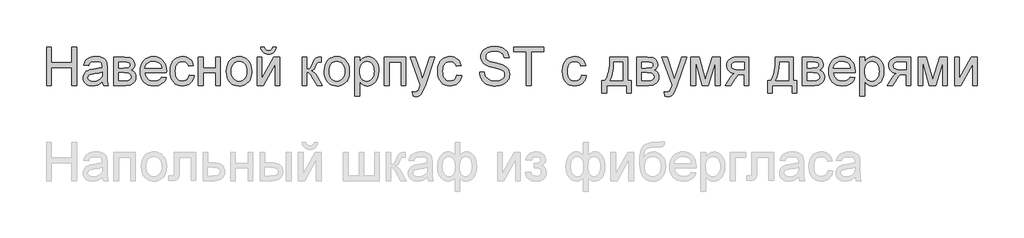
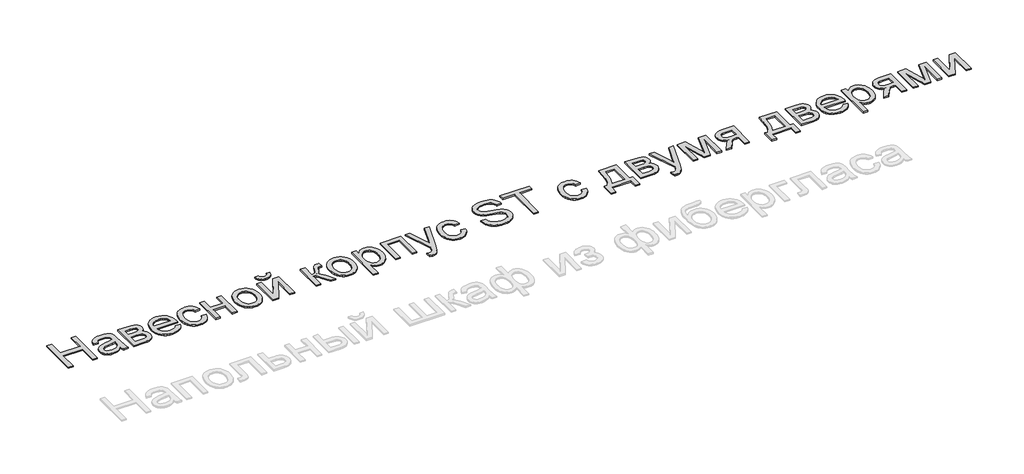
# One storey, part 4 of 6: 1 proxy.
"""IFC4 building model written with IfcOpenShell, lengths in millimetres."""

from ifc_helpers import new_model, si_unit, origin, origin_with_axes, place, context, project, spatial, polyline, outline, extrude, element, save

model = new_model("IFC4")

# Units and contexts
model_context = context("Model", 3, world=origin())
ifc_project = project(units=[si_unit("LENGTHUNIT", "METRE", prefix="MILLI")], contexts=[model_context])

# Site, building, storey
site = spatial("IfcSite", under=ifc_project)
building = spatial("IfcBuilding", under=site)
storey = spatial("IfcBuildingStorey", under=building, Name="Этаж 01", Elevation=0.0)

# Proxy
placement = place(None, origin())
element("IfcBuildingElementProxy", 1, Name="600 мм Arial", ObjectType="600 мм Arial", at=placement, inside=storey, context=model_context, shape_type="SweptSolid", body=[
    extrude(outline(polyline([(180.1086, -11579.3444823), (180.1086, -10976.6066215), (255.4508326, -10976.6066215), (255.4508326, -11221.4688774), (575.6553212, -11221.4688774), (575.6553212, -10976.6066215), (650.9975538, -10976.6066215), (650.9975538, -11579.3444823), (575.6553212, -11579.3444823), (575.6553212, -11296.8111101), (255.4508326, -11296.8111101), (255.4508326, -11579.3444823), (180.1086, -11579.3444823)])), origin_with_axes(), (0.0, 0.0, 1.0), 20.0),
    extrude(outline(polyline([(1055.9620541, -11522.8378079), (1019.9648008, -11553.7031073), (982.9006898, -11573.8998288), (943.9235924, -11585.0466533), (902.1873801, -11588.7622614), (868.6411407, -11586.5273783), (839.2243766, -11579.8227289), (813.937088, -11568.6483133), (792.7792747, -11553.0041315), (776.0728336, -11533.8834648), (764.1396614, -11512.2795946), (756.9797581, -11488.192521), (754.5931236, -11461.6222439), (758.1983672, -11430.3890625), (769.0140978, -11402.0253607), (785.6975463, -11377.745149), (806.9059433, -11358.762438), (831.8299485, -11344.4150402), (859.6602214, -11334.040768), (924.848911, -11322.7100025), (1001.8834008, -11310.7906259), (1055.5205957, -11296.8111101), (1055.9620541, -11280.0356911), (1050.7749179, -11246.4112767), (1044.2909978, -11233.9584712), (1035.2135095, -11224.4119334), (1019.5233425, -11214.8837897), (1000.4118728, -11208.0779728), (951.9250258, -11202.6333193), (907.0434224, -11206.2569569), (875.6998764, -11217.1278699), (854.3259325, -11237.2326209), (839.3531353, -11268.5577728), (764.0109027, -11259.1399937), (777.0891076, -11217.9372103), (796.6052475, -11185.5635947), (824.3803381, -11160.8051364), (862.2353954, -11142.4478249), (908.5333445, -11131.0802712), (961.6371105, -11127.2910867), (1012.5703727, -11130.6388128), (1052.9454217, -11140.6819913), (1083.3876568, -11155.7835472), (1104.5224774, -11174.3064057), (1118.5387815, -11197.2070599), (1127.6254667, -11225.442003), (1131.3042867, -11291.3664565), (1131.3042867, -11385.1027889), (1135.1302594, -11515.9952028), (1140.7956422, -11548.3504243), (1150.1398448, -11579.3444823), (1074.7976122, -11579.3444823), (1062.7310828, -11553.1512843), (1055.9620541, -11522.8378079)]), holes=[polyline([(1055.9620541, -11372.1533427), (1005.3414915, -11384.6981187), (934.4138429, -11395.256332), (869.5930353, -11407.4700142), (852.7256458, -11415.8209355), (840.2360521, -11427.3356419), (832.5105302, -11441.1312168), (829.9353562, -11456.3247432), (835.5455567, -11478.7287567), (852.3761579, -11497.0860682), (880.0592781, -11509.3365387), (918.2270351, -11513.4200288), (958.6940545, -11508.9134744), (994.4521845, -11495.393811), (1023.4412857, -11475.473001), (1043.601219, -11451.7630064), (1052.5407515, -11427.3356419), (1055.5205957, -11393.4904984), (1055.9620541, -11372.1533427)])]), origin_with_axes(), (0.0, 0.0, 1.0), 20.0),
    extrude(outline(polyline([(1234.8998565, -11136.7088658), (1400.8882128, -11136.7088658), (1454.2494962, -11139.2288574), (1491.9022184, -11146.7888324), (1519.6037326, -11161.0626538), (1543.1113921, -11183.7241847), (1559.1694412, -11213.2467148), (1564.5221242, -11248.1035339), (1561.2847626, -11276.1913242), (1551.572678, -11300.4163536), (1535.349082, -11320.8889866), (1512.5771865, -11337.7195879), (1540.4626417, -11353.3729668), (1563.197749, -11378.5544894), (1578.317699, -11411.2775929), (1583.3576824, -11449.5557145), (1579.1730247, -11480.3934227), (1570.5921771, -11506.9820939), (1557.6151397, -11529.3217281), (1540.2419125, -11547.4123252), (1518.4449043, -11561.3826439), (1492.196524, -11571.3614431), (1461.4967715, -11577.3487225), (1426.3456468, -11579.3444823), (1234.8998565, -11579.3444823), (1234.8998565, -11136.7088658)]), holes=[polyline([(1310.2420891, -11306.2288891), (1384.701405, -11306.2288891), (1446.1376982, -11302.4029164), (1461.9566239, -11296.6639573), (1476.0097162, -11287.0990254), (1485.8873477, -11274.4438847), (1489.1798916, -11259.4342993), (1487.7359548, -11247.193026), (1483.4041443, -11236.9567094), (1476.1844601, -11228.7253498), (1466.0769023, -11222.498947), (1434.7701445, -11214.6630605), (1387.0558497, -11212.0510984), (1310.2420891, -11212.0510984), (1310.2420891, -11306.2288891)]), polyline([(1310.2420891, -11504.0022497), (1402.6540463, -11504.0022497), (1453.0170915, -11500.5993413), (1484.6181549, -11490.3906159), (1494.413013, -11482.3477958), (1501.5775148, -11471.8309693), (1508.0154497, -11443.3752969), (1504.7964823, -11424.5213447), (1495.1395799, -11407.1021322), (1480.3139355, -11393.4721043), (1461.588742, -11385.9857057), (1395.2964064, -11381.5711217), (1310.2420891, -11381.5711217), (1310.2420891, -11504.0022497)])]), origin_with_axes(), (0.0, 0.0, 1.0), 20.0),
    extrude(outline(polyline([(1987.4392659, -11447.4955753), (2061.3099705, -11456.9133544), (2049.9838036, -11486.5002638), (2034.6937081, -11512.5739002), (2015.4396842, -11535.1342636), (1992.2217318, -11554.1813539), (1965.2789742, -11569.3105009), (1934.8505346, -11580.1170345), (1900.9364132, -11586.6009547), (1863.5366099, -11588.7622614), (1816.7880053, -11585.0328577), (1775.1345664, -11573.8446465), (1738.5762932, -11555.1976279), (1707.1131855, -11529.0918018), (1681.8121013, -11496.2537352), (1663.7398983, -11457.409995), (1652.8965765, -11412.5605813), (1649.2821359, -11361.705494), (1652.9333647, -11309.1259598), (1663.8870511, -11262.7820255), (1682.1431951, -11222.673691), (1707.7017967, -11188.8009563), (1739.0821309, -11161.8903883), (1774.8034726, -11142.6685541), (1814.8658219, -11131.1354535), (1859.2691787, -11127.2910867), (1902.2423943, -11131.1262565), (1941.1045286, -11142.6317659), (1975.8555815, -11161.8076149), (2006.4955532, -11188.6538035), (2031.5069304, -11222.4529618), (2049.3721997, -11262.4877199), (2060.0913614, -11308.7580778), (2063.6644153, -11361.2640356), (2063.2229569, -11381.5711217), (1724.6243685, -11381.5711217), (1728.9883687, -11411.6362778), (1737.6657852, -11437.9674316), (1750.6566182, -11460.5645832), (1767.9608675, -11479.4277325), (1788.6220401, -11494.2993621), (1811.6836427, -11504.9219547), (1837.1456753, -11511.2955103), (1865.0081379, -11513.4200288), (1905.1072753, -11509.4836915), (1938.8788425, -11497.6746794), (1966.3228393, -11477.2572287), (1987.4392659, -11447.4955753)]), holes=[polyline([(1724.6243685, -11306.2288891), (1988.3221826, -11306.2288891), (1978.1318514, -11266.4240573), (1969.3670628, -11250.7706784), (1958.155859, -11237.9499908), (1937.6096496, -11222.498947), (1914.2307488, -11211.4624872), (1888.0191567, -11204.8406113), (1858.9748731, -11202.6333193), (1832.482771, -11204.3945543), (1808.1887637, -11209.6782595), (1786.0928514, -11218.4844348), (1766.195034, -11230.8130801), (1749.4977899, -11246.0939785), (1737.0035976, -11263.7569128), (1728.7124572, -11283.801883), (1724.6243685, -11306.2288891)])]), origin_with_axes(), (0.0, 0.0, 1.0), 20.0),
    extrude(outline(polyline([(2421.5400202, -11419.242238), (2496.8822528, -11428.6600171), (2488.6876813, -11464.2112134), (2475.8761909, -11495.6697225), (2458.4477813, -11523.0355445), (2436.4024528, -11546.3086792), (2410.6691072, -11564.8821214), (2382.1766467, -11578.1488659), (2350.9250712, -11586.1089125), (2316.9143807, -11588.7622614), (2274.6585351, -11585.0604488), (2236.7712881, -11573.9550111), (2203.2526398, -11555.4459482), (2174.1025902, -11529.5332602), (2150.5075587, -11496.7043907), (2133.6539648, -11457.4467832), (2123.5418085, -11411.760438), (2120.1710897, -11359.6453548), (2125.9284429, -11292.5988612), (2133.1251345, -11262.4279391), (2143.2005026, -11234.4919001), (2156.2235252, -11209.3517642), (2172.2631802, -11187.5685516), (2191.3194676, -11169.1422622), (2213.3923873, -11154.0728959), (2237.4840595, -11142.3558544), (2262.5966042, -11133.986539), (2288.7300214, -11128.9649498), (2315.8843112, -11127.2910867), (2349.3109889, -11129.5903491), (2379.5462904, -11136.4881366), (2406.5902156, -11147.9844489), (2430.4427645, -11164.0792862), (2450.6992668, -11184.4047664), (2466.9550525, -11208.5930076), (2479.2101214, -11236.6440097), (2487.4644737, -11268.5577728), (2412.1222411, -11277.9755519), (2398.455425, -11245.1052956), (2377.1734516, -11221.5424538), (2349.4535432, -11207.3606029), (2316.4729223, -11202.6333193), (2290.872934, -11204.9601729), (2267.7837403, -11211.9407338), (2247.2053412, -11223.5750019), (2229.1377367, -11239.8629772), (2214.4270554, -11261.1817388), (2203.9194259, -11287.9083658), (2197.6148482, -11320.042858), (2195.5133223, -11357.5852157), (2197.568863, -11395.6931918), (2203.7354849, -11428.2001646), (2214.0131882, -11455.1061341), (2228.4019727, -11476.4111001), (2246.1108922, -11492.6025064), (2266.3490005, -11504.1677966), (2289.1162975, -11511.1069708), (2314.4127832, -11513.4200288), (2353.4266688, -11507.6442815), (2370.2986568, -11500.4245973), (2385.4140082, -11490.3170395), (2398.3496589, -11477.2112434), (2408.6825444, -11460.9968445), (2416.4126649, -11441.6738427), (2421.5400202, -11419.242238)])), origin_with_axes(), (0.0, 0.0, 1.0), 20.0),
    extrude(outline(polyline([(2562.8067063, -11136.7088658), (2638.1489389, -11136.7088658), (2638.1489389, -11306.2288891), (2835.9222995, -11306.2288891), (2835.9222995, -11136.7088658), (2911.2645321, -11136.7088658), (2911.2645321, -11579.3444823), (2835.9222995, -11579.3444823), (2835.9222995, -11381.5711217), (2638.1489389, -11381.5711217), (2638.1489389, -11579.3444823), (2562.8067063, -11579.3444823), (2562.8067063, -11136.7088658)])), origin_with_axes(), (0.0, 0.0, 1.0), 20.0),
    extrude(outline(polyline([(3005.4423229, -11358.0266741), (3009.516616, -11300.7014622), (3021.7394953, -11251.3041073), (3042.1109608, -11209.8346093), (3070.6310125, -11176.2929684), (3099.3442022, -11154.8546452), (3131.0372361, -11139.5415571), (3165.7101141, -11130.3537043), (3203.3628363, -11127.2910867), (3244.9289032, -11131.0204904), (3282.5126476, -11142.2087016), (3316.1140693, -11160.8557202), (3345.7331685, -11186.9615463), (3369.9076141, -11219.643263), (3387.1750752, -11258.0179537), (3397.5355519, -11302.0856182), (3400.9890441, -11351.8462565), (3399.4623338, -11392.1753203), (3394.882203, -11427.9610413), (3387.2486516, -11459.2034198), (3376.5616796, -11485.9024556), (3362.9546444, -11508.9640581), (3346.5609029, -11529.2941369), (3327.3804554, -11546.8926918), (3305.4133018, -11561.759723), (3281.5147677, -11573.5733335), (3256.5401787, -11582.0116268), (3230.4895349, -11587.0746028), (3203.3628363, -11588.7622614), (3161.1897641, -11585.0466533), (3123.2565319, -11573.8998288), (3089.5631396, -11555.3217881), (3060.1095874, -11529.312531), (3036.1926592, -11496.313516), (3019.109139, -11456.7662016), (3008.8590269, -11410.6705876), (3005.4423229, -11358.0266741)]), holes=[polyline([(3080.7845555, -11357.8795213), (3082.9642563, -11394.4239989), (3089.5033588, -11426.0664491), (3100.4018629, -11452.8068716), (3115.6597687, -11474.6452665), (3134.2194153, -11491.609225), (3155.0231422, -11503.7263382), (3178.0709491, -11510.9966062), (3203.3628363, -11513.4200288), (3228.5259648, -11510.9828106), (3251.4818013, -11503.6711559), (3272.2303458, -11491.4850649), (3290.7715984, -11474.4245373), (3306.0295041, -11452.3700117), (3316.9280082, -11425.2019264), (3323.4671107, -11392.9202813), (3325.6468115, -11355.5250765), (3323.4533151, -11320.1394271), (3316.8728259, -11289.3247115), (3305.9053439, -11263.0809296), (3290.5508692, -11241.4080816), (3271.9406387, -11224.4441231), (3251.2058898, -11212.3270099), (3228.3466223, -11205.0567419), (3203.3628363, -11202.6333193), (3178.0709491, -11205.0475449), (3155.0231422, -11212.2902217), (3134.2194153, -11224.3613496), (3115.6597687, -11241.2609288), (3100.4018629, -11263.0349444), (3089.5033588, -11289.7293816), (3082.9642563, -11321.3442406), (3080.7845555, -11357.8795213)])]), origin_with_axes(), (0.0, 0.0, 1.0), 20.0),
    extrude(outline(polyline([(3730.6113118, -10976.6066215), (3787.1179863, -10976.6066215), (3782.5700451, -11002.3169744), (3774.9594863, -11024.8543451), (3764.2863099, -11044.2187336), (3750.5505159, -11060.41014), (3734.0280158, -11073.1894408), (3714.9947211, -11082.3175128), (3693.4506318, -11087.794356), (3669.3957478, -11089.6199704), (3643.2669291, -11087.8081515), (3619.9156195, -11082.3726951), (3599.3418189, -11073.3136009), (3581.5455274, -11060.6308691), (3566.7842623, -11044.5084407), (3555.3155411, -11025.1302566), (3547.1393638, -11002.4963169), (3542.2557303, -10976.6066215), (3598.7624047, -10976.6066215), (3606.7086558, -11001.420262), (3619.9524077, -11019.0602037), (3638.5672366, -11029.6000229), (3662.6267191, -11033.1132959), (3689.7764103, -11029.7103875), (3709.4213089, -11019.5016621), (3722.6650607, -11001.972085), (3730.6113118, -10976.6066215)])), origin_with_axes(), (0.0, 0.0, 1.0), 20.0),
    extrude(outline(polyline([(3485.7490558, -11136.7088658), (3561.0912884, -11136.7088658), (3561.0912884, -11474.2773845), (3746.2095084, -11136.7088658), (3843.6246607, -11136.7088658), (3843.6246607, -11579.3444823), (3768.2824281, -11579.3444823), (3768.2824281, -11243.8361027), (3584.3414305, -11579.3444823), (3485.7490558, -11579.3444823), (3485.7490558, -11136.7088658)])), origin_with_axes(), (0.0, 0.0, 1.0), 20.0),
    extrude(outline(polyline([(4192.0824866, -11136.7088658), (4267.4247192, -11136.7088658), (4267.4247192, -11325.0644473), (4298.0692894, -11321.6799329), (4317.8981289, -11311.5263899), (4335.4461001, -11285.0388862), (4359.2480652, -11232.6524901), (4378.4331112, -11189.8126318), (4393.6082435, -11164.594321), (4407.7717003, -11150.8539285), (4423.9217199, -11142.4478249), (4446.2705511, -11138.1436055), (4479.0304428, -11136.7088658), (4493.451417, -11136.7088658), (4493.451417, -11212.4925568), (4473.1443309, -11212.0510984), (4449.5998832, -11214.0376611), (4436.3561314, -11219.9973495), (4425.6139771, -11236.5888274), (4410.4572389, -11269.5878424), (4394.5463426, -11302.6420397), (4380.0701861, -11323.2250373), (4362.540609, -11336.9654298), (4337.469451, -11349.4918118), (4361.3449925, -11360.0960103), (4384.9998048, -11378.8120068), (4408.4338879, -11405.6398013), (4431.6472418, -11440.5793938), (4512.2869752, -11579.3444823), (4426.6440467, -11579.3444823), (4347.6229941, -11443.5224497), (4326.2858384, -11407.3780437), (4307.8917386, -11386.0592821), (4289.3136979, -11375.6298275), (4267.4247192, -11372.1533427), (4267.4247192, -11579.3444823), (4192.0824866, -11579.3444823), (4192.0824866, -11136.7088658)])), origin_with_axes(), (0.0, 0.0, 1.0), 20.0),
    extrude(outline(polyline([(4540.5403124, -11358.0266741), (4544.6146055, -11300.7014622), (4556.8374848, -11251.3041073), (4577.2089503, -11209.8346093), (4605.7290019, -11176.2929684), (4634.4421917, -11154.8546452), (4666.1352255, -11139.5415571), (4700.8081036, -11130.3537043), (4738.4608258, -11127.2910867), (4780.0268927, -11131.0204904), (4817.6106371, -11142.2087016), (4851.2120588, -11160.8557202), (4880.8311579, -11186.9615463), (4905.0056035, -11219.643263), (4922.2730647, -11258.0179537), (4932.6335414, -11302.0856182), (4936.0870336, -11351.8462565), (4934.5603233, -11392.1753203), (4929.9801925, -11427.9610413), (4922.3466411, -11459.2034198), (4911.6596691, -11485.9024556), (4898.0526338, -11508.9640581), (4881.6588924, -11529.2941369), (4862.4784449, -11546.8926918), (4840.5112913, -11561.759723), (4816.6127571, -11573.5733335), (4791.6381682, -11582.0116268), (4765.5875244, -11587.0746028), (4738.4608258, -11588.7622614), (4696.2877536, -11585.0466533), (4658.3545213, -11573.8998288), (4624.6611291, -11555.3217881), (4595.2075769, -11529.312531), (4571.2906487, -11496.313516), (4554.2071285, -11456.7662016), (4543.9570164, -11410.6705876), (4540.5403124, -11358.0266741)]), holes=[polyline([(4615.882545, -11357.8795213), (4618.0622458, -11394.4239989), (4624.6013483, -11426.0664491), (4635.4998524, -11452.8068716), (4650.7577581, -11474.6452665), (4669.3174048, -11491.609225), (4690.1211316, -11503.7263382), (4713.1689386, -11510.9966062), (4738.4608258, -11513.4200288), (4763.6239543, -11510.9828106), (4786.5797908, -11503.6711559), (4807.3283353, -11491.4850649), (4825.8695878, -11474.4245373), (4841.1274936, -11452.3700117), (4852.0259977, -11425.2019264), (4858.5651002, -11392.9202813), (4860.744801, -11355.5250765), (4858.5513046, -11320.1394271), (4851.9708154, -11289.3247115), (4841.0033334, -11263.0809296), (4825.6488586, -11241.4080816), (4807.0386282, -11224.4441231), (4786.3038793, -11212.3270099), (4763.4446118, -11205.0567419), (4738.4608258, -11202.6333193), (4713.1689386, -11205.0475449), (4690.1211316, -11212.2902217), (4669.3174048, -11224.3613496), (4650.7577581, -11241.2609288), (4635.4998524, -11263.0349444), (4624.6013483, -11289.7293816), (4618.0622458, -11321.3442406), (4615.882545, -11357.8795213)])]), origin_with_axes(), (0.0, 0.0, 1.0), 20.0),
    extrude(outline(polyline([(5020.8470453, -11748.8645057), (5020.8470453, -11136.7088658), (5096.1892779, -11136.7088658), (5096.1892779, -11210.5795704), (5120.7637952, -11174.1408588), (5148.2813684, -11148.1132076), (5180.3606784, -11132.4966169), (5218.6204059, -11127.2910867), (5244.8963774, -11129.1121026), (5269.5720622, -11134.5751502), (5292.6474604, -11143.6802296), (5314.1225718, -11156.4273407), (5333.5283471, -11172.4853898), (5350.3957366, -11191.523283), (5364.7247403, -11213.5410204), (5376.5153582, -11238.538602), (5392.2974958, -11294.0519951), (5397.5582084, -11354.6421597), (5391.6169141, -11419.0766912), (5384.1902964, -11448.7417755), (5373.7930315, -11476.7054057), (5360.5676737, -11502.2364162), (5344.6567774, -11524.6036415), (5326.0603426, -11543.8070816), (5304.7783692, -11559.8467366), (5281.8547223, -11572.4972787), (5258.3332673, -11581.5333802), (5234.214004, -11586.9550411), (5209.4969324, -11588.7622614), (5174.8608426, -11583.9246132), (5143.9403609, -11569.4116685), (5117.4712513, -11547.5042957), (5096.1892779, -11520.4833631), (5096.1892779, -11748.8645057), (5020.8470453, -11748.8645057)]), holes=[polyline([(5096.1892779, -11361.5583412), (5098.2264245, -11397.8682941), (5104.3378641, -11429.1014755), (5114.5235968, -11455.2578854), (5128.7836227, -11476.3375237), (5145.9499163, -11492.5611197), (5164.8544523, -11504.1494025), (5185.4972308, -11511.1023722), (5207.8782516, -11513.4200288), (5230.5811693, -11511.0195988), (5251.6010268, -11503.8183087), (5270.9378241, -11491.8161586), (5288.5915614, -11475.0131485), (5303.3022427, -11453.1701551), (5313.8098721, -11426.048055), (5320.1144498, -11393.6468482), (5322.2159757, -11355.9665349), (5320.1650336, -11319.9692816), (5314.0122072, -11288.7912826), (5303.7574966, -11262.4325376), (5289.4009018, -11240.8930468), (5272.1932214, -11224.154416), (5253.3852544, -11212.1982512), (5232.9770008, -11205.0245523), (5210.9684604, -11202.6333193), (5189.0288979, -11205.1763036), (5168.3861195, -11212.8052565), (5149.040125, -11225.5201779), (5130.9909146, -11243.321068), (5115.7651986, -11265.9688033), (5104.8896871, -11293.2242606), (5098.3643802, -11325.0874399), (5096.1892779, -11361.5583412)])]), origin_with_axes(), (0.0, 0.0, 1.0), 20.0),
    extrude(outline(polyline([(5482.31822, -11136.7088658), (5821.3582668, -11136.7088658), (5821.3582668, -11579.3444823), (5746.0160342, -11579.3444823), (5746.0160342, -11212.0510984), (5557.6604527, -11212.0510984), (5557.6604527, -11579.3444823), (5482.31822, -11579.3444823), (5482.31822, -11136.7088658)])), origin_with_axes(), (0.0, 0.0, 1.0), 20.0),
    extrude(outline(polyline([(5934.3716157, -11748.8645057), (5924.9538366, -11676.3181763), (5963.2135641, -11682.9400522), (5983.3367093, -11680.8615189), (5998.9716941, -11674.6259191), (6011.1485881, -11664.6747111), (6020.897461, -11651.4493534), (6041.4988527, -11595.9727485), (6047.3849646, -11577.7258016), (5887.2827203, -11136.7088658), (5966.7452313, -11136.7088658), (6051.6523958, -11382.4540385), (6081.2301082, -11480.7521076), (6110.8078206, -11393.9319568), (6198.0694299, -11136.7088658), (6276.9433296, -11136.7088658), (6122.87435, -11589.9394838), (6082.848789, -11688.2375529), (6062.3577618, -11719.6178871), (6039.1444079, -11741.359713), (6012.1786577, -11754.0516419), (5980.4304415, -11758.2822848), (5958.6150392, -11755.92784), (5934.3716157, -11748.8645057)])), origin_with_axes(), (0.0, 0.0, 1.0), 20.0),
    extrude(outline(polyline([(6621.8694883, -11419.242238), (6697.2117209, -11428.6600171), (6689.0171495, -11464.2112134), (6676.205659, -11495.6697225), (6658.7772495, -11523.0355445), (6636.7319209, -11546.3086792), (6610.9985753, -11564.8821214), (6582.5061148, -11578.1488659), (6551.2545393, -11586.1089125), (6517.2438489, -11588.7622614), (6474.9880032, -11585.0604488), (6437.1007562, -11573.9550111), (6403.5821079, -11555.4459482), (6374.4320583, -11529.5332602), (6350.8370269, -11496.7043907), (6333.983433, -11457.4467832), (6323.8712766, -11411.760438), (6320.5005579, -11359.6453548), (6326.2579111, -11292.5988612), (6333.4546026, -11262.4279391), (6343.5299707, -11234.4919001), (6356.5529934, -11209.3517642), (6372.5926484, -11187.5685516), (6391.6489357, -11169.1422622), (6413.7218554, -11154.0728959), (6437.8135276, -11142.3558544), (6462.9260723, -11133.986539), (6489.0594895, -11128.9649498), (6516.2137793, -11127.2910867), (6549.6404571, -11129.5903491), (6579.8757585, -11136.4881366), (6606.9196837, -11147.9844489), (6630.7722326, -11164.0792862), (6651.0287349, -11184.4047664), (6667.2845206, -11208.5930076), (6679.5395896, -11236.6440097), (6687.7939418, -11268.5577728), (6612.4517092, -11277.9755519), (6598.7848931, -11245.1052956), (6577.5029197, -11221.5424538), (6549.7830113, -11207.3606029), (6516.8023905, -11202.6333193), (6491.2024021, -11204.9601729), (6468.1132084, -11211.9407338), (6447.5348093, -11223.5750019), (6429.4672048, -11239.8629772), (6414.7565235, -11261.1817388), (6404.2488941, -11287.9083658), (6397.9443164, -11320.042858), (6395.8427905, -11357.5852157), (6397.8983311, -11395.6931918), (6404.0649531, -11428.2001646), (6414.3426563, -11455.1061341), (6428.7314408, -11476.4111001), (6446.4403604, -11492.6025064), (6466.6784686, -11504.1677966), (6489.4457656, -11511.1069708), (6514.7422513, -11513.4200288), (6553.7561369, -11507.6442815), (6570.6281249, -11500.4245973), (6585.7434764, -11490.3170395), (6598.679127, -11477.2112434), (6609.0120126, -11460.9968445), (6616.742133, -11441.6738427), (6621.8694883, -11419.242238)])), origin_with_axes(), (0.0, 0.0, 1.0), 20.0),
    extrude(outline(polyline([(6979.7450932, -11372.1533427), (7055.0873258, -11372.1533427), (7063.7325527, -11413.9631314), (7079.3675375, -11447.5691517), (7103.7581138, -11474.2405963), (7138.6701151, -11495.2466583), (7181.3444266, -11508.8766862), (7229.0219331, -11513.4200288), (7270.9972688, -11509.9803322), (7307.7486801, -11499.6612422), (7337.5287276, -11483.3272816), (7358.5899718, -11461.8429731), (7371.1163538, -11437.1764853), (7375.2918144, -11411.295987), (7372.1648175, -11386.0776762), (7362.7838266, -11364.280668), (7343.7275392, -11345.6842331), (7311.5746529, -11330.0676424), (7201.8722419, -11301.2992704), (7129.8593413, -11282.2613771), (7083.7821214, -11264.1431889), (7046.276552, -11238.7961194), (7019.6970779, -11208.0779728), (7003.859758, -11172.6509367), (6998.5806514, -11133.1771986), (7000.2131277, -11110.7409954), (7005.1105568, -11089.0497533), (7013.2729385, -11068.1034722), (7024.700273, -11047.9021521), (7039.2638015, -11029.2689291), (7056.8347653, -11013.026939), (7077.4131644, -10999.1761819), (7100.9989988, -10987.7166577), (7154.0107943, -10972.3207962), (7212.6879726, -10967.1888424), (7276.2579813, -10972.5599195), (7331.881739, -10988.6731509), (7356.217133, -11000.675301), (7377.5726828, -11015.1974427), (7395.9483885, -11032.2395762), (7411.3442499, -11051.8017013), (7423.6407056, -11073.3136009), (7432.7181939, -11096.2050581), (7438.5767146, -11120.4760727), (7441.216268, -11146.1266448), (7365.8740353, -11146.1266448), (7360.834052, -11122.0855564), (7352.0416723, -11101.171465), (7339.4968963, -11083.3843706), (7323.1997239, -11068.724273), (7302.8466525, -11057.2647489), (7278.1341795, -11049.0793745), (7249.0623048, -11044.1681499), (7215.6310285, -11042.531075), (7181.1328944, -11044.1497558), (7151.6563496, -11049.0057981), (7127.2013939, -11057.099202), (7107.7680275, -11068.4299674), (7092.9607772, -11082.0507983), (7082.3841699, -11097.0143985), (7076.0382054, -11113.3207679), (7073.922884, -11130.9699066), (7075.4220031, -11146.154236), (7079.9193605, -11159.9222196), (7087.4149561, -11172.2738576), (7097.9087901, -11183.2091499), (7114.4266916, -11193.5650281), (7140.4359487, -11204.0312709), (7220.9285292, -11225.2948502), (7303.9962838, -11245.4915717), (7354.2489643, -11263.1131193), (7397.1991872, -11290.4467515), (7413.8044608, -11306.5139977), (7427.1631757, -11324.1815305), (7437.4316819, -11343.3573795), (7444.7663292, -11363.9495742), (7450.634047, -11409.3830006), (7448.9463884, -11432.9504409), (7443.8834124, -11455.8281025), (7435.4451192, -11478.0159853), (7423.6315086, -11499.5140894), (7408.6495143, -11519.4900817), (7390.70607, -11537.1116293), (7369.8011756, -11552.3787321), (7345.9348312, -11565.2913901), (7319.801414, -11575.5598963), (7292.0953012, -11582.8945436), (7231.9649891, -11588.7622614), (7193.4247516, -11587.1803688), (7158.1494668, -11582.4346911), (7126.1391347, -11574.5252282), (7097.3937553, -11563.4519802), (7071.7385846, -11549.1965528), (7048.9988788, -11531.7405522), (7029.1746378, -11511.0839781), (7012.2658616, -11487.2268308), (6998.6450307, -11460.9416622), (6988.6846257, -11433.0010247), (6982.3846465, -11403.4049182), (6979.7450932, -11372.1533427)])), origin_with_axes(), (0.0, 0.0, 1.0), 20.0),
    extrude(outline(polyline([(7714.3318612, -11579.3444823), (7714.3318612, -11051.9488541), (7516.5585006, -11051.9488541), (7516.5585006, -10976.6066215), (7987.4474544, -10976.6066215), (7987.4474544, -11051.9488541), (7789.6740938, -11051.9488541), (7789.6740938, -11579.3444823), (7714.3318612, -11579.3444823)])), origin_with_axes(), (0.0, 0.0, 1.0), 20.0),
    extrude(outline(polyline([(8580.7675362, -11419.242238), (8656.1097688, -11428.6600171), (8647.9151974, -11464.2112134), (8635.1037069, -11495.6697225), (8617.6752974, -11523.0355445), (8595.6299688, -11546.3086792), (8569.8966233, -11564.8821214), (8541.4041627, -11578.1488659), (8510.1525872, -11586.1089125), (8476.1418968, -11588.7622614), (8433.8860511, -11585.0604488), (8395.9988041, -11573.9550111), (8362.4801559, -11555.4459482), (8333.3301063, -11529.5332602), (8309.7350748, -11496.7043907), (8292.8814809, -11457.4467832), (8282.7693245, -11411.760438), (8279.3986058, -11359.6453548), (8285.155959, -11292.5988612), (8292.3526505, -11262.4279391), (8302.4280187, -11234.4919001), (8315.4510413, -11209.3517642), (8331.4906963, -11187.5685516), (8350.5469836, -11169.1422622), (8372.6199033, -11154.0728959), (8396.7115755, -11142.3558544), (8421.8241202, -11133.986539), (8447.9575374, -11128.9649498), (8475.1118272, -11127.2910867), (8508.538505, -11129.5903491), (8538.7738065, -11136.4881366), (8565.8177316, -11147.9844489), (8589.6702805, -11164.0792862), (8609.9267829, -11184.4047664), (8626.1825685, -11208.5930076), (8638.4376375, -11236.6440097), (8646.6919898, -11268.5577728), (8571.3497571, -11277.9755519), (8557.682941, -11245.1052956), (8536.4009676, -11221.5424538), (8508.6810593, -11207.3606029), (8475.7004384, -11202.6333193), (8450.1004501, -11204.9601729), (8427.0112563, -11211.9407338), (8406.4328572, -11223.5750019), (8388.3652527, -11239.8629772), (8373.6545715, -11261.1817388), (8363.146942, -11287.9083658), (8356.8423643, -11320.042858), (8354.7408384, -11357.5852157), (8356.796379, -11395.6931918), (8362.963001, -11428.2001646), (8373.2407042, -11455.1061341), (8387.6294887, -11476.4111001), (8405.3384083, -11492.6025064), (8425.5765166, -11504.1677966), (8448.3438135, -11511.1069708), (8473.6402992, -11513.4200288), (8512.6541848, -11507.6442815), (8529.5261728, -11500.4245973), (8544.6415243, -11490.3170395), (8557.5771749, -11477.2112434), (8567.9100605, -11460.9968445), (8575.6401809, -11441.6738427), (8580.7675362, -11419.242238)])), origin_with_axes(), (0.0, 0.0, 1.0), 20.0),
    extrude(outline(polyline([(9023.4031528, -11136.7088658), (9305.9365251, -11136.7088658), (9305.9365251, -11504.0022497), (9362.4431996, -11504.0022497), (9362.4431996, -11701.7756103), (9287.100967, -11701.7756103), (9287.100967, -11579.3444823), (8976.3142574, -11579.3444823), (8976.3142574, -11701.7756103), (8900.9720248, -11701.7756103), (8900.9720248, -11504.0022497), (8948.0609202, -11504.0022497), (8966.4596185, -11475.56957), (8982.2923399, -11442.1428922), (8995.5590843, -11403.7222164), (9006.2598518, -11360.3075424), (9014.3946425, -11311.8988704), (9019.9634562, -11258.4962003), (9023.4031528, -11136.7088658)]), holes=[polyline([(9089.3276063, -11212.0510984), (9083.1471888, -11304.2975087), (9071.6692706, -11383.7048373), (9054.8938516, -11450.2730843), (9032.8209319, -11504.0022497), (9230.5942925, -11504.0022497), (9230.5942925, -11212.0510984), (9089.3276063, -11212.0510984)])]), origin_with_axes(), (0.0, 0.0, 1.0), 20.0),
    extrude(outline(polyline([(9447.2032113, -11136.7088658), (9613.1915675, -11136.7088658), (9666.5528509, -11139.2288574), (9704.2055731, -11146.7888324), (9731.9070873, -11161.0626538), (9755.4147468, -11183.7241847), (9771.4727959, -11213.2467148), (9776.8254789, -11248.1035339), (9773.5881174, -11276.1913242), (9763.8760327, -11300.4163536), (9747.6524367, -11320.8889866), (9724.8805412, -11337.7195879), (9752.7659965, -11353.3729668), (9775.5011038, -11378.5544894), (9790.6210538, -11411.2775929), (9795.6610371, -11449.5557145), (9791.4763794, -11480.3934227), (9782.8955319, -11506.9820939), (9769.9184945, -11529.3217281), (9752.5452673, -11547.4123252), (9730.748259, -11561.3826439), (9704.4998787, -11571.3614431), (9673.8001262, -11577.3487225), (9638.6490015, -11579.3444823), (9447.2032113, -11579.3444823), (9447.2032113, -11136.7088658)]), holes=[polyline([(9522.5454439, -11306.2288891), (9597.0047597, -11306.2288891), (9658.4410529, -11302.4029164), (9674.2599787, -11296.6639573), (9688.3130709, -11287.0990254), (9698.1907025, -11274.4438847), (9701.4832463, -11259.4342993), (9700.0393095, -11247.193026), (9695.707499, -11236.9567094), (9688.4878148, -11228.7253498), (9678.380257, -11222.498947), (9647.0734992, -11214.6630605), (9599.3592045, -11212.0510984), (9522.5454439, -11212.0510984), (9522.5454439, -11306.2288891)]), polyline([(9522.5454439, -11504.0022497), (9614.9574011, -11504.0022497), (9665.3204462, -11500.5993413), (9696.9215096, -11490.3906159), (9706.7163677, -11482.3477958), (9713.8808696, -11471.8309693), (9720.3188045, -11443.3752969), (9717.099837, -11424.5213447), (9707.4429346, -11407.1021322), (9692.6172902, -11393.4721043), (9673.8920967, -11385.9857057), (9607.5997612, -11381.5711217), (9522.5454439, -11381.5711217), (9522.5454439, -11504.0022497)])]), origin_with_axes(), (0.0, 0.0, 1.0), 20.0),
    extrude(outline(polyline([(9889.8388279, -11748.8645057), (9880.4210488, -11676.3181763), (9918.6807763, -11682.9400522), (9938.8039214, -11680.8615189), (9954.4389062, -11674.6259191), (9966.6158002, -11664.6747111), (9976.3646731, -11651.4493534), (9996.9660648, -11595.9727485), (10002.8521768, -11577.7258016), (9842.7499325, -11136.7088658), (9922.2124434, -11136.7088658), (10007.1196079, -11382.4540385), (10036.6973203, -11480.7521076), (10066.2750327, -11393.9319568), (10153.536642, -11136.7088658), (10232.4105418, -11136.7088658), (10078.3415622, -11589.9394838), (10038.3160011, -11688.2375529), (10017.824974, -11719.6178871), (9994.6116201, -11741.359713), (9967.6458698, -11754.0516419), (9935.8976536, -11758.2822848), (9914.0822513, -11755.92784), (9889.8388279, -11748.8645057)])), origin_with_axes(), (0.0, 0.0, 1.0), 20.0),
    extrude(outline(polyline([(10294.8033281, -11136.7088658), (10424.4449432, -11136.7088658), (10524.3616931, -11491.0528035), (10632.0775413, -11136.7088658), (10756.2745029, -11136.7088658), (10756.2745029, -11579.3444823), (10680.9322703, -11579.3444823), (10680.9322703, -11222.9404054), (10572.6278109, -11579.3444823), (10473.7411306, -11579.3444823), (10370.1455608, -11205.8706808), (10370.1455608, -11579.3444823), (10294.8033281, -11579.3444823), (10294.8033281, -11136.7088658)])), origin_with_axes(), (0.0, 0.0, 1.0), 20.0),
    extrude(outline(polyline([(11208.3278986, -11136.7088658), (11208.3278986, -11579.3444823), (11132.985666, -11579.3444823), (11132.985666, -11409.824459), (11091.9300353, -11409.824459), (11059.1885377, -11412.2156919), (11036.011972, -11419.3893908), (11013.6815349, -11440.2483), (10983.4784231, -11483.6951636), (10923.4400815, -11579.3444823), (10836.325625, -11579.3444823), (10911.9621633, -11458.3848823), (10945.3658484, -11414.9748069), (10961.0744096, -11402.3196663), (10976.1207832, -11395.6977904), (10948.4560572, -11389.5817522), (10924.6173039, -11379.9156528), (10904.6045233, -11366.6994921), (10888.4177156, -11349.9332702), (10875.9281218, -11330.6930418), (10867.0069834, -11310.0548619), (10861.6543004, -11288.0187304), (10859.8700727, -11264.5846473), (10862.307291, -11237.4533501), (10869.6189456, -11213.0075916), (10881.8050367, -11191.2473715), (10898.8655642, -11172.1726901), (10920.5430108, -11156.6572669), (10946.579859, -11145.5748218), (10976.9761089, -11138.9253548), (11011.7317603, -11136.7088658), (11208.3278986, -11136.7088658)]), holes=[polyline([(11132.985666, -11212.0510984), (11033.6575273, -11212.0510984), (10982.356383, -11216.4105), (10965.0245425, -11221.8597521), (10953.2385231, -11229.4887049), (10939.7188598, -11248.4162336), (10935.2123053, -11270.3236064), (10936.8723729, -11285.7792487), (10941.8525754, -11299.0367961), (10950.1529129, -11310.0962486), (10961.7733854, -11318.9576062), (10977.6153038, -11325.7496275), (10998.579979, -11330.6010713), (11055.8775998, -11334.4822264), (11132.985666, -11334.4822264), (11132.985666, -11212.0510984)])]), origin_with_axes(), (0.0, 0.0, 1.0), 20.0),
    extrude(outline(polyline([(11622.7101779, -11136.7088658), (11905.2435502, -11136.7088658), (11905.2435502, -11504.0022497), (11961.7502247, -11504.0022497), (11961.7502247, -11701.7756103), (11886.4079921, -11701.7756103), (11886.4079921, -11579.3444823), (11575.6212826, -11579.3444823), (11575.6212826, -11701.7756103), (11500.2790499, -11701.7756103), (11500.2790499, -11504.0022497), (11547.3679453, -11504.0022497), (11565.7666436, -11475.56957), (11581.599365, -11442.1428922), (11594.8661094, -11403.7222164), (11605.566877, -11360.3075424), (11613.7016676, -11311.8988704), (11619.2704813, -11258.4962003), (11622.7101779, -11136.7088658)]), holes=[polyline([(11688.6346315, -11212.0510984), (11682.454214, -11304.2975087), (11670.9762957, -11383.7048373), (11654.2008767, -11450.2730843), (11632.127957, -11504.0022497), (11829.9013176, -11504.0022497), (11829.9013176, -11212.0510984), (11688.6346315, -11212.0510984)])]), origin_with_axes(), (0.0, 0.0, 1.0), 20.0),
    extrude(outline(polyline([(12046.5102364, -11136.7088658), (12212.4985926, -11136.7088658), (12265.859876, -11139.2288574), (12303.5125982, -11146.7888324), (12331.2141124, -11161.0626538), (12354.7217719, -11183.7241847), (12370.779821, -11213.2467148), (12376.1325041, -11248.1035339), (12372.8951425, -11276.1913242), (12363.1830578, -11300.4163536), (12346.9594618, -11320.8889866), (12324.1875663, -11337.7195879), (12352.0730216, -11353.3729668), (12374.8081289, -11378.5544894), (12389.9280789, -11411.2775929), (12394.9680622, -11449.5557145), (12390.7834045, -11480.3934227), (12382.202557, -11506.9820939), (12369.2255196, -11529.3217281), (12351.8522924, -11547.4123252), (12330.0552842, -11561.3826439), (12303.8069038, -11571.3614431), (12273.1071513, -11577.3487225), (12237.9560267, -11579.3444823), (12046.5102364, -11579.3444823), (12046.5102364, -11136.7088658)]), holes=[polyline([(12121.852469, -11306.2288891), (12196.3117848, -11306.2288891), (12257.748078, -11302.4029164), (12273.5670038, -11296.6639573), (12287.620096, -11287.0990254), (12297.4977276, -11274.4438847), (12300.7902714, -11259.4342993), (12299.3463346, -11247.193026), (12295.0145241, -11236.9567094), (12287.79484, -11228.7253498), (12277.6872821, -11222.498947), (12246.3805244, -11214.6630605), (12198.6662296, -11212.0510984), (12121.852469, -11212.0510984), (12121.852469, -11306.2288891)]), polyline([(12121.852469, -11504.0022497), (12214.2644262, -11504.0022497), (12264.6274713, -11500.5993413), (12296.2285347, -11490.3906159), (12306.0233928, -11482.3477958), (12313.1878947, -11471.8309693), (12319.6258296, -11443.3752969), (12316.4068621, -11424.5213447), (12306.7499598, -11407.1021322), (12291.9243154, -11393.4721043), (12273.1991218, -11385.9857057), (12206.9067863, -11381.5711217), (12121.852469, -11381.5711217), (12121.852469, -11504.0022497)])]), origin_with_axes(), (0.0, 0.0, 1.0), 20.0),
    extrude(outline(polyline([(12799.0496457, -11447.4955753), (12872.9203503, -11456.9133544), (12861.5941834, -11486.5002638), (12846.304088, -11512.5739002), (12827.0500641, -11535.1342636), (12803.8321116, -11554.1813539), (12776.889354, -11569.3105009), (12746.4609145, -11580.1170345), (12712.5467931, -11586.6009547), (12675.1469897, -11588.7622614), (12628.3983852, -11585.0328577), (12586.7449463, -11573.8446465), (12550.186673, -11555.1976279), (12518.7235654, -11529.0918018), (12493.4224812, -11496.2537352), (12475.3502782, -11457.409995), (12464.5069563, -11412.5605813), (12460.8925157, -11361.705494), (12464.5437445, -11309.1259598), (12475.497431, -11262.7820255), (12493.753575, -11222.673691), (12519.3121766, -11188.8009563), (12550.6925108, -11161.8903883), (12586.4138525, -11142.6685541), (12626.4762018, -11131.1354535), (12670.8795586, -11127.2910867), (12713.8527742, -11131.1262565), (12752.7149084, -11142.6317659), (12787.4659614, -11161.8076149), (12818.1059331, -11188.6538035), (12843.1173102, -11222.4529618), (12860.9825796, -11262.4877199), (12871.7017412, -11308.7580778), (12875.2747951, -11361.2640356), (12874.8333367, -11381.5711217), (12536.2347484, -11381.5711217), (12540.5987485, -11411.6362778), (12549.2761651, -11437.9674316), (12562.266998, -11460.5645832), (12579.5712474, -11479.4277325), (12600.2324199, -11494.2993621), (12623.2940225, -11504.9219547), (12648.7560551, -11511.2955103), (12676.6185177, -11513.4200288), (12716.7176552, -11509.4836915), (12750.4892223, -11497.6746794), (12777.9332192, -11477.2572287), (12799.0496457, -11447.4955753)]), holes=[polyline([(12536.2347484, -11306.2288891), (12799.9325625, -11306.2288891), (12789.7422312, -11266.4240573), (12780.9774427, -11250.7706784), (12769.7662389, -11237.9499908), (12749.2200295, -11222.498947), (12725.8411287, -11211.4624872), (12699.6295365, -11204.8406113), (12670.585253, -11202.6333193), (12644.0931508, -11204.3945543), (12619.7991436, -11209.6782595), (12597.7032312, -11218.4844348), (12577.8054138, -11230.8130801), (12561.1081698, -11246.0939785), (12548.6139775, -11263.7569128), (12540.322837, -11283.801883), (12536.2347484, -11306.2288891)])]), origin_with_axes(), (0.0, 0.0, 1.0), 20.0),
    extrude(outline(polyline([(12950.6170277, -11748.8645057), (12950.6170277, -11136.7088658), (13025.9592603, -11136.7088658), (13025.9592603, -11210.5795704), (13050.5337776, -11174.1408588), (13078.0513509, -11148.1132076), (13110.1306608, -11132.4966169), (13148.3903883, -11127.2910867), (13174.6663598, -11129.1121026), (13199.3420447, -11134.5751502), (13222.4174428, -11143.6802296), (13243.8925543, -11156.4273407), (13263.2983295, -11172.4853898), (13280.165719, -11191.523283), (13294.4947227, -11213.5410204), (13306.2853407, -11238.538602), (13322.0674783, -11294.0519951), (13327.3281908, -11354.6421597), (13321.3868966, -11419.0766912), (13313.9602788, -11448.7417755), (13303.5630139, -11476.7054057), (13290.3376562, -11502.2364162), (13274.4267599, -11524.6036415), (13255.830325, -11543.8070816), (13234.5483516, -11559.8467366), (13211.6247048, -11572.4972787), (13188.1032497, -11581.5333802), (13163.9839864, -11586.9550411), (13139.2669149, -11588.7622614), (13104.630825, -11583.9246132), (13073.7103433, -11569.4116685), (13047.2412338, -11547.5042957), (13025.9592603, -11520.4833631), (13025.9592603, -11748.8645057), (12950.6170277, -11748.8645057)]), holes=[polyline([(13025.9592603, -11361.5583412), (13027.9964069, -11397.8682941), (13034.1078465, -11429.1014755), (13044.2935793, -11455.2578854), (13058.5536051, -11476.3375237), (13075.7198987, -11492.5611197), (13094.6244347, -11504.1494025), (13115.2672132, -11511.1023722), (13137.6482341, -11513.4200288), (13160.3511517, -11511.0195988), (13181.3710092, -11503.8183087), (13200.7078066, -11491.8161586), (13218.3615438, -11475.0131485), (13233.0722251, -11453.1701551), (13243.5798546, -11426.048055), (13249.8844323, -11393.6468482), (13251.9859582, -11355.9665349), (13249.9350161, -11319.9692816), (13243.7821897, -11288.7912826), (13233.5274791, -11262.4325376), (13219.1708842, -11240.8930468), (13201.9632039, -11224.154416), (13183.1552369, -11212.1982512), (13162.7469832, -11205.0245523), (13140.7384428, -11202.6333193), (13118.7988803, -11205.1763036), (13098.1561019, -11212.8052565), (13078.8101075, -11225.5201779), (13060.7608971, -11243.321068), (13045.535181, -11265.9688033), (13034.6596695, -11293.2242606), (13028.1343626, -11325.0874399), (13025.9592603, -11361.5583412)])]), origin_with_axes(), (0.0, 0.0, 1.0), 20.0),
    extrude(outline(polyline([(13751.1282492, -11136.7088658), (13751.1282492, -11579.3444823), (13675.7860166, -11579.3444823), (13675.7860166, -11409.824459), (13634.730386, -11409.824459), (13601.9888884, -11412.2156919), (13578.8123227, -11419.3893908), (13556.4818856, -11440.2483), (13526.2787738, -11483.6951636), (13466.2404322, -11579.3444823), (13379.1259757, -11579.3444823), (13454.7625139, -11458.3848823), (13488.1661991, -11414.9748069), (13503.8747603, -11402.3196663), (13518.9211339, -11395.6977904), (13491.2564078, -11389.5817522), (13467.4176545, -11379.9156528), (13447.404874, -11366.6994921), (13431.2180662, -11349.9332702), (13418.7284725, -11330.6930418), (13409.8073341, -11310.0548619), (13404.4546511, -11288.0187304), (13402.6704234, -11264.5846473), (13405.1076416, -11237.4533501), (13412.4192963, -11213.0075916), (13424.6053874, -11191.2473715), (13441.6659149, -11172.1726901), (13463.3433615, -11156.6572669), (13489.3802097, -11145.5748218), (13519.7764595, -11138.9253548), (13554.532111, -11136.7088658), (13751.1282492, -11136.7088658)]), holes=[polyline([(13675.7860166, -11212.0510984), (13576.4578779, -11212.0510984), (13525.1567337, -11216.4105), (13507.8248932, -11221.8597521), (13496.0388738, -11229.4887049), (13482.5192105, -11248.4162336), (13478.012656, -11270.3236064), (13479.6727235, -11285.7792487), (13484.652926, -11299.0367961), (13492.9532635, -11310.0962486), (13504.5737361, -11318.9576062), (13520.4156545, -11325.7496275), (13541.3803297, -11330.6010713), (13598.6779504, -11334.4822264), (13675.7860166, -11334.4822264), (13675.7860166, -11212.0510984)])]), origin_with_axes(), (0.0, 0.0, 1.0), 20.0),
    extrude(outline(polyline([(13864.1415981, -11136.7088658), (13993.7832132, -11136.7088658), (14093.6999631, -11491.0528035), (14201.4158113, -11136.7088658), (14325.6127729, -11136.7088658), (14325.6127729, -11579.3444823), (14250.2705403, -11579.3444823), (14250.2705403, -11222.9404054), (14141.9660809, -11579.3444823), (14043.0794006, -11579.3444823), (13939.4838308, -11205.8706808), (13939.4838308, -11579.3444823), (13864.1415981, -11579.3444823), (13864.1415981, -11136.7088658)])), origin_with_axes(), (0.0, 0.0, 1.0), 20.0),
    extrude(outline(polyline([(14438.6261218, -11136.7088658), (14513.9683544, -11136.7088658), (14513.9683544, -11474.2773845), (14699.0865744, -11136.7088658), (14796.5017267, -11136.7088658), (14796.5017267, -11579.3444823), (14721.1594941, -11579.3444823), (14721.1594941, -11243.8361027), (14537.2184965, -11579.3444823), (14438.6261218, -11579.3444823), (14438.6261218, -11136.7088658)])), origin_with_axes(), (0.0, 0.0, 1.0), 20.0),
])

save(model, "model.ifc")
